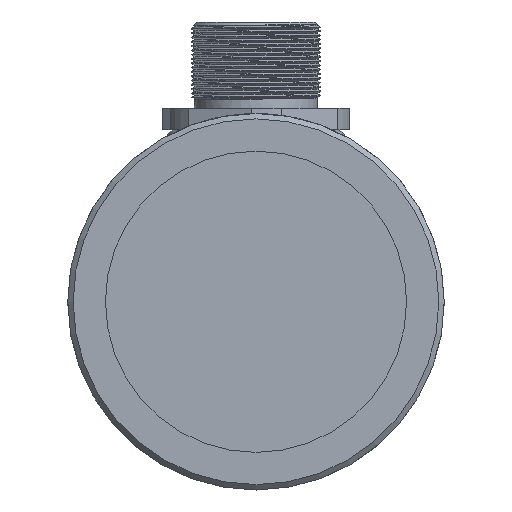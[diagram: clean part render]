
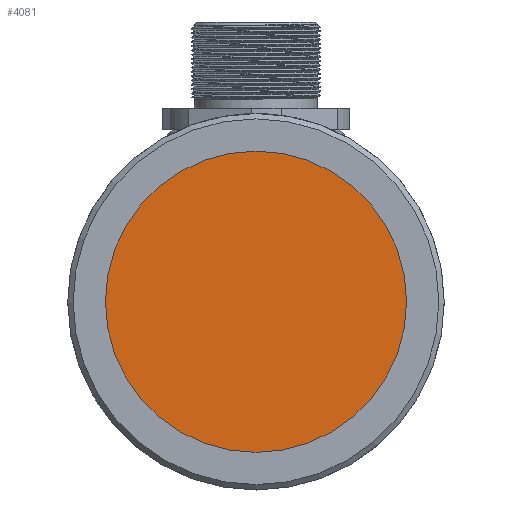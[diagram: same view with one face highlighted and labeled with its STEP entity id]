
A CAD part, left-side view. The second image highlights one B-rep face of the part: STEP entity #4081.
In plain terms, the highlighted planar face has unit normal (-1, 0, 0).
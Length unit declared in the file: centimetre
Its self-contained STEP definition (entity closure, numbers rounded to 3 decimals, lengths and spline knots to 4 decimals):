
#1328=PLANE('',#4340);
#1504=VERTEX_POINT('',#5841);
#1771=CIRCLE('',#4338,1.4);
#2015=EDGE_CURVE('',#1504,#1504,#1771,.T.);
#2693=ORIENTED_EDGE('',*,*,#2015,.T.);
#3530=EDGE_LOOP('',(#2693));
#3809=FACE_BOUND('',#3530,.T.);
#4081=ADVANCED_FACE('',(#3809),#1328,.T.);
#4338=AXIS2_PLACEMENT_3D('',#5840,#4774,#4775);
#4340=AXIS2_PLACEMENT_3D('',#5844,#4778,$);
#4774=DIRECTION('',(-1.,0.,0.));
#4775=DIRECTION('',(0.,0.,1.4));
#4778=DIRECTION('',(-1.,0.,0.));
#5840=CARTESIAN_POINT('',(0.1,0.,0.));
#5841=CARTESIAN_POINT('',(0.1,0.,1.4));
#5844=CARTESIAN_POINT('',(0.1,0.,0.));
